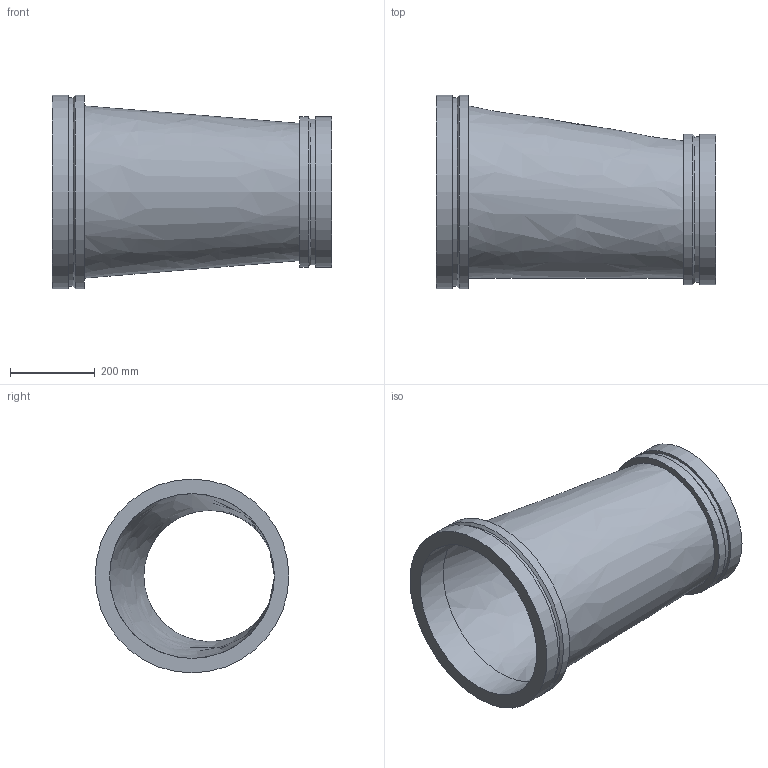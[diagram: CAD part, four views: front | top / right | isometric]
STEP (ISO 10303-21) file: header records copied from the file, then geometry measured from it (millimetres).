
FILE_DESCRIPTION(/* description */ ('VIC REDUCER ECCENTRIC No W51-VR','CAx-IF Rec.Pracs.---Representation and Presentation of Product Manufacturing Information (PMI)---4.0---2014-10-13'),/* implementation_level */ '2;1');
FILE_NAME(/* name */ 'C:\Users\kkamble\AppData\Roaming\Autodesk\ApplicationPlugins\Back Up\Victaulic_Vic-Ring_Reducer Eccentric_No W51 VR (AGR)\Victaulic_Vic-Ring_Reducer Eccentric_No W51 VR (AGR)_16.0x12.0 (400x300).stp',/* time_stamp */ '2020-09-10T11:48:45+05:00',/* author */ ('CONSTRUCTION PIPING SERVICES'),/* organization */ ('Victaulic'),/* preprocessor_version */ 'ST-DEVELOPER v17.2',/* originating_system */ 'Autodesk Inventor 2019',/* authorisation */ '');
FILE_SCHEMA (('AP242_MANAGED_MODEL_BASED_3D_ENGINEERING_MIM_LF { 1 0 10303 442 1 1 4 }'));
Length unit declared in the file: inch
Products named in the file (1): W51 VR-16.0x12.0
Bounding box: 660.4 x 457.2 x 457.2 mm (x, y, z)
Volume: 9611428.6 mm3; surface area: 1650477.1 mm2
Topology: 1 solids, 1 shells, 18 faces, 52 edges, 40 vertices
Faces by surface type: cylinder 8, plane 6, cone 2, bspline 2
Full cylindrical faces by diameter (mm): 309.677 x1, 342.9 x1, 355.6 x2, 388.823 x1, 444.5 x1, 457.2 x2
Entity records: 822 total; most frequent: CARTESIAN_POINT 164, DIRECTION 150, ORIENTED_EDGE 104, AXIS2_PLACEMENT_3D 70, EDGE_CURVE 52, CIRCLE 40, VERTEX_POINT 40, EDGE_LOOP 24
